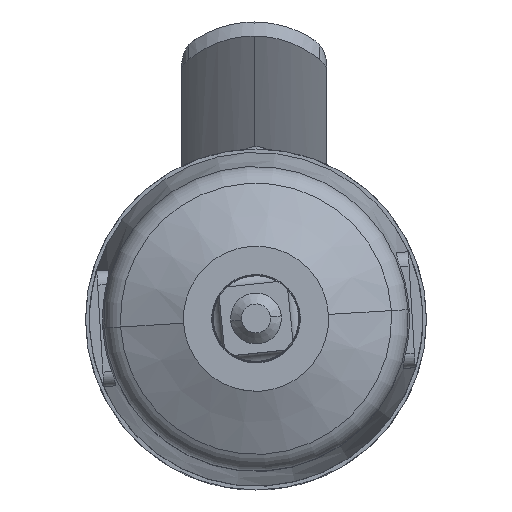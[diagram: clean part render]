
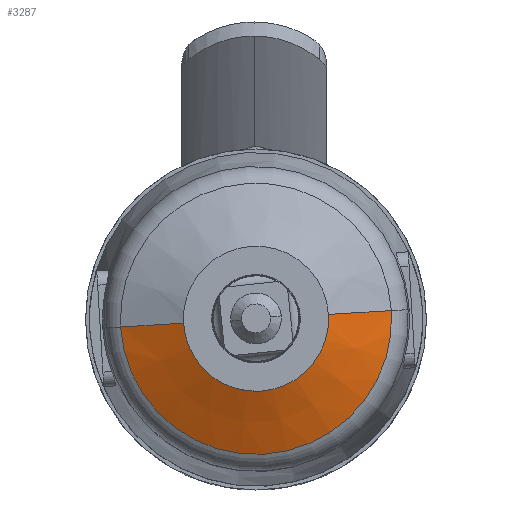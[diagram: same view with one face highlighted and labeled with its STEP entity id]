
A CAD part, top view. The second image highlights one B-rep face of the part: STEP entity #3287.
In plain terms, the highlighted conical face has half-angle 65 degrees and reference radius 21 mm.
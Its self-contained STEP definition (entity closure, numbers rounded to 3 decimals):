
#3142 = VERTEX_POINT ( 'NONE', #16949 ) ;
#3143 = VERTEX_POINT ( 'NONE', #16948 ) ;
#3172 = VERTEX_POINT ( 'NONE', #17020 ) ;
#3173 = VERTEX_POINT ( 'NONE', #17019 ) ;
#3175 = EDGE_CURVE ( 'NONE', #3172, #3142, #17018, .T. ) ;
#3178 = EDGE_CURVE ( 'NONE', #3173, #3143, #17014, .T. ) ;
#3287 = ADVANCED_FACE ( 'NONE', ( #17237 ), #17299, .T. ) ;
#3288 = ORIENTED_EDGE ( 'NONE', *, *, #3175, .F. ) ;
#3289 = ORIENTED_EDGE ( 'NONE', *, *, #3308, .F. ) ;
#3290 = ORIENTED_EDGE ( 'NONE', *, *, #3178, .T. ) ;
#3291 = ORIENTED_EDGE ( 'NONE', *, *, #3292, .T. ) ;
#3292 = EDGE_CURVE ( 'NONE', #3143, #3142, #17294, .T. ) ;
#3308 = EDGE_CURVE ( 'NONE', #3173, #3172, #17277, .T. ) ;
#3310 = EDGE_LOOP ( 'NONE', ( #3288, #3289, #3290, #3291 ) ) ;
#16948 = CARTESIAN_POINT ( 'NONE',  ( -18.69, 0., -6.052 ) ) ;
#16949 = CARTESIAN_POINT ( 'NONE',  ( 18.69, 0., -6.052 ) ) ;
#17011 = DIRECTION ( 'NONE',  ( -0.906, 0., -0.423 ) ) ;
#17012 = VECTOR ( 'NONE', #17011, 1000. ) ;
#17013 = CARTESIAN_POINT ( 'NONE',  ( -21., 0., -7.129 ) ) ;
#17014 = LINE ( 'NONE', #17013, #17012 ) ;
#17015 = DIRECTION ( 'NONE',  ( 0.906, 0., -0.423 ) ) ;
#17016 = VECTOR ( 'NONE', #17015, 1000. ) ;
#17017 = CARTESIAN_POINT ( 'NONE',  ( 21., 0., -7.129 ) ) ;
#17018 = LINE ( 'NONE', #17017, #17016 ) ;
#17019 = CARTESIAN_POINT ( 'NONE',  ( -10., 0., -2. ) ) ;
#17020 = CARTESIAN_POINT ( 'NONE',  ( 10., 0., -2. ) ) ;
#17237 = FACE_OUTER_BOUND ( 'NONE', #3310, .T. ) ;
#17269 = DIRECTION ( 'NONE',  ( 1., 0., 0. ) ) ;
#17270 = DIRECTION ( 'NONE',  ( 0., 0., 1. ) ) ;
#17271 = CARTESIAN_POINT ( 'NONE',  ( 0., 0., -2. ) ) ;
#17272 = AXIS2_PLACEMENT_3D ( 'NONE', #17271, #17270, #17269 ) ;
#17277 = CIRCLE ( 'NONE', #17272, 10. ) ;
#17291 = DIRECTION ( 'NONE',  ( 1., 0., 0. ) ) ;
#17292 = DIRECTION ( 'NONE',  ( 0., 0., 1. ) ) ;
#17293 = AXIS2_PLACEMENT_3D ( 'NONE', #17300, #17292, #17291 ) ;
#17294 = CIRCLE ( 'NONE', #17293, 18.69 ) ;
#17295 = DIRECTION ( 'NONE',  ( -1., 0., 0. ) ) ;
#17296 = DIRECTION ( 'NONE',  ( 0., 0., -1. ) ) ;
#17297 = CARTESIAN_POINT ( 'NONE',  ( 0., 0., -7.129 ) ) ;
#17298 = AXIS2_PLACEMENT_3D ( 'NONE', #17297, #17296, #17295 ) ;
#17299 = CONICAL_SURFACE ( 'NONE', #17298, 21., 1.134 ) ;
#17300 = CARTESIAN_POINT ( 'NONE',  ( 0., 0., -6.052 ) ) ;
